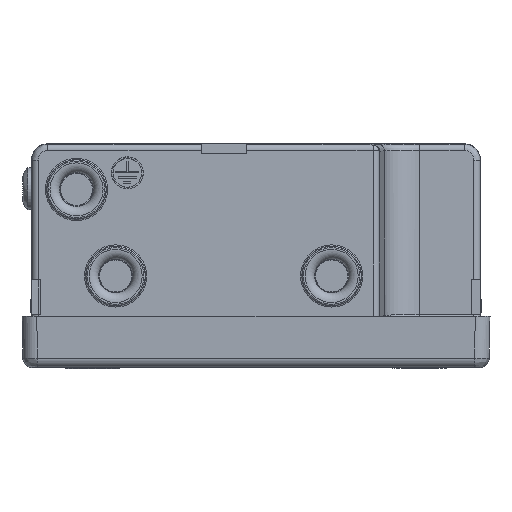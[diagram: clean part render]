
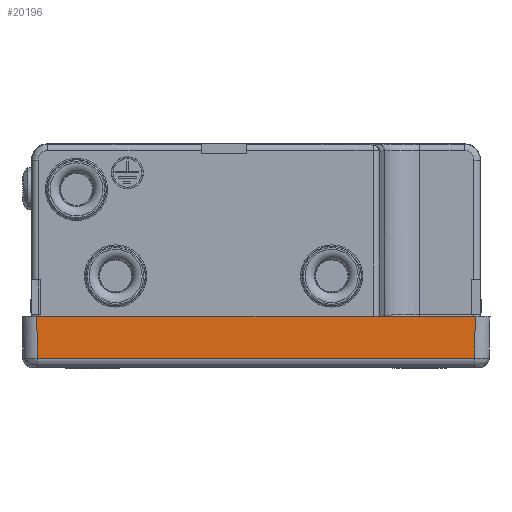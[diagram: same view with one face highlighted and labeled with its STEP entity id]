
A CAD part, left-side view. The second image highlights one B-rep face of the part: STEP entity #20196.
In plain terms, the highlighted planar face has unit normal (-1, 0, -0.018).
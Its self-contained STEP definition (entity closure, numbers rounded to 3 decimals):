
#1793=LINE('',#34532,#3417);
#1852=LINE('',#34820,#3476);
#1856=LINE('',#34826,#3480);
#1859=LINE('',#34830,#3483);
#3417=VECTOR('',#25554,10.);
#3476=VECTOR('',#25761,10.);
#3480=VECTOR('',#25769,10.);
#3483=VECTOR('',#25774,10.);
#5194=FACE_OUTER_BOUND('',#6363,.T.);
#6363=EDGE_LOOP('',(#15035,#15036,#15037,#15038));
#8498=VERTEX_POINT('',#34529);
#8499=VERTEX_POINT('',#34531);
#8544=VERTEX_POINT('',#34737);
#8551=VERTEX_POINT('',#34811);
#10791=EDGE_CURVE('',#8498,#8499,#1793,.T.);
#10888=EDGE_CURVE('',#8551,#8544,#1852,.T.);
#10892=EDGE_CURVE('',#8499,#8551,#1856,.T.);
#10895=EDGE_CURVE('',#8544,#8498,#1859,.T.);
#15035=ORIENTED_EDGE('',*,*,#10895,.F.);
#15036=ORIENTED_EDGE('',*,*,#10888,.F.);
#15037=ORIENTED_EDGE('',*,*,#10892,.F.);
#15038=ORIENTED_EDGE('',*,*,#10791,.F.);
#18229=PLANE('',#21829);
#20196=ADVANCED_FACE('',(#5194),#18229,.T.);
#21829=AXIS2_PLACEMENT_3D('',#34835,#25781,#25782);
#25554=DIRECTION('',(0.,-1.,0.));
#25761=DIRECTION('',(0.,1.,0.));
#25769=DIRECTION('',(0.017,0.017,-1.));
#25774=DIRECTION('',(-0.017,0.017,1.));
#25781=DIRECTION('center_axis',(-1.,0.,
-0.017));
#25782=DIRECTION('ref_axis',(0.,-1.,0.));
#34529=CARTESIAN_POINT('',(-54.7,34.2,8.1));
#34531=CARTESIAN_POINT('',(-54.7,-34.2,8.1));
#34532=CARTESIAN_POINT('',(-54.7,36.5,8.1));
#34737=CARTESIAN_POINT('',(-54.586,34.086,1.574));
#34811=CARTESIAN_POINT('',(-54.586,-34.086,1.574));
#34820=CARTESIAN_POINT('',(-54.586,18.25,1.574));
#34826=CARTESIAN_POINT('',(-54.55,-34.05,-0.493));
#34830=CARTESIAN_POINT('',(-54.544,34.045,-0.81));
#34835=CARTESIAN_POINT('Origin',(-54.56,36.5,0.101));
